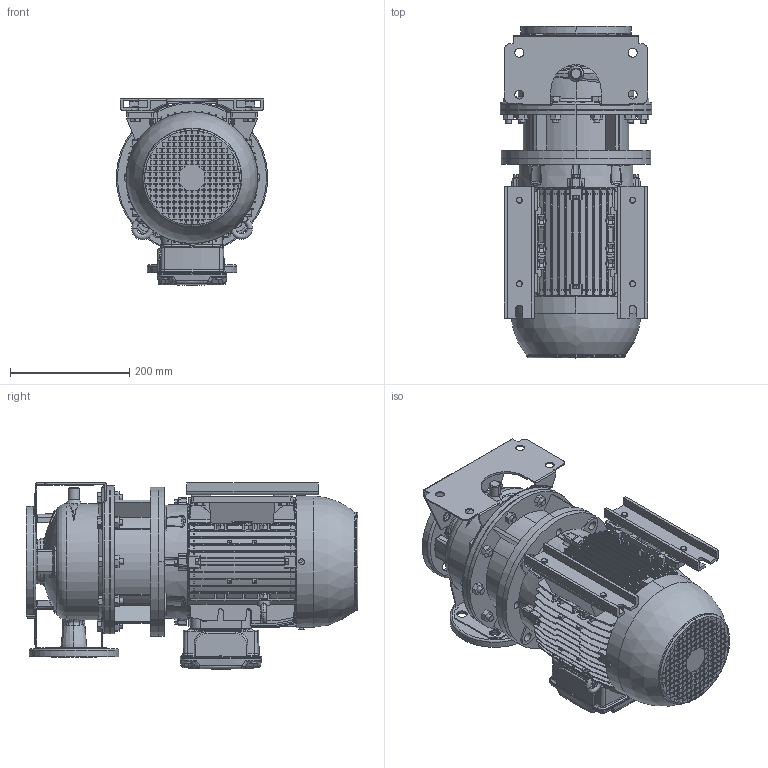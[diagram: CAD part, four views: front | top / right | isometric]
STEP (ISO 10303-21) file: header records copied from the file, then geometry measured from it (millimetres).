
FILE_DESCRIPTION (( 'STEP AP214' ), '1' );
FILE_NAME ('3LS 40-160_4.0_(112M)_W21.STEP', '2026-04-29T02:25:57', ( '' ), ( '' ), 'SwSTEP 2.0', 'SolidWorks 2024', '' );
FILE_SCHEMA (( 'AUTOMOTIVE_DESIGN' ));
Length unit declared in the file: inch
Products named in the file (4): 40-160_4_ie2_STEP; 3LS 40-160_4.0_(112M)_W21; Bolt & Washer M10 x 20.STEP; 112M ALIE3_W21T_B35
Assembly tree (6 placements, depth 2):
  3LS 40-160_4.0_(112M)_W21
    40-160_4_ie2_STEP
    112M ALIE3_W21T_B35
    Bolt & Washer M10 x 20.STEP  x4
Bounding box: 254 x 556.1 x 312 mm (x, y, z)
Volume: 16643819.4 mm3; surface area: 1606115.4 mm2
Topology: 24 solids, 26 shells, 4377 faces, 11711 edges, 7669 vertices
Faces by surface type: plane 2556, cylinder 845, bspline 401, cone 310, torus 248, sphere 17
Entity records: 175222 total; most frequent: CARTESIAN_POINT 72210, ORIENTED_EDGE 23008, DIRECTION 18790, EDGE_CURVE 11504, VERTEX_POINT 7543, VECTOR 6906, LINE 6906, AXIS2_PLACEMENT_3D 5942
